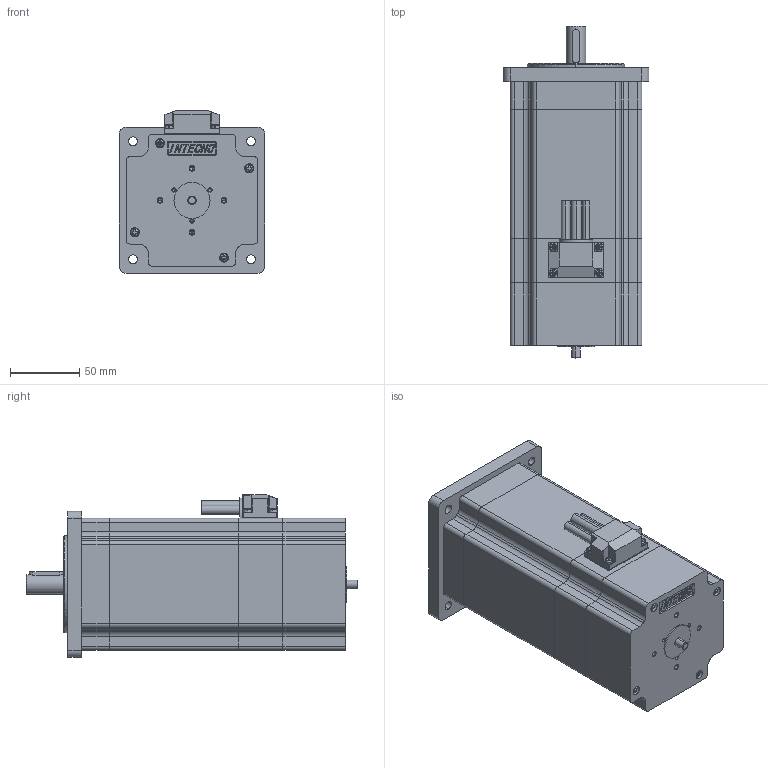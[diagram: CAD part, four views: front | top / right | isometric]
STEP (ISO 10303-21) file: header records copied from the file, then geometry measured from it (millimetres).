
FILE_DESCRIPTION (( 'STEP AP214' ), '1' );
FILE_NAME ('BL200.48.95.STEP', '2021-05-04T15:16:15', ( '' ), ( '' ), 'SwSTEP 2.0', 'SolidWorks 2020', '' );
FILE_SCHEMA (( 'AUTOMOTIVE_DESIGN' ));
Length unit declared in the file: millimetre
Products named in the file (1): BL200.48.95
Bounding box: 105 x 239 x 117 mm (x, y, z)
Volume: 1655260.2 mm3; surface area: 158650.4 mm2
Topology: 6 solids, 6 shells, 678 faces, 1796 edges, 1156 vertices
Faces by surface type: plane 357, cylinder 207, cone 70, bspline 28, torus 16
Entity records: 23008 total; most frequent: CARTESIAN_POINT 6218, ORIENTED_EDGE 3528, DIRECTION 3416, EDGE_CURVE 1764, AXIS2_PLACEMENT_3D 1163, VERTEX_POINT 1156, LINE 1090, VECTOR 1090
